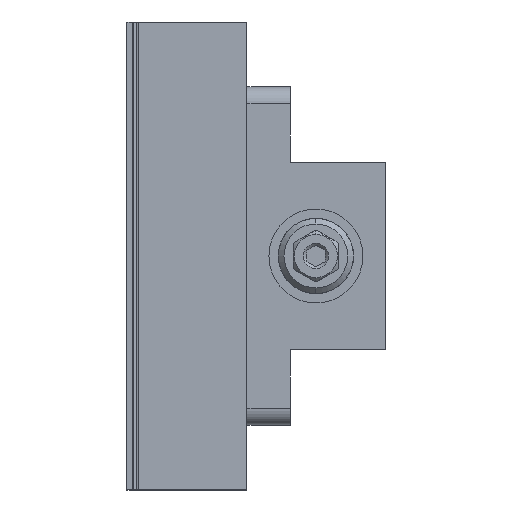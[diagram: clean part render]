
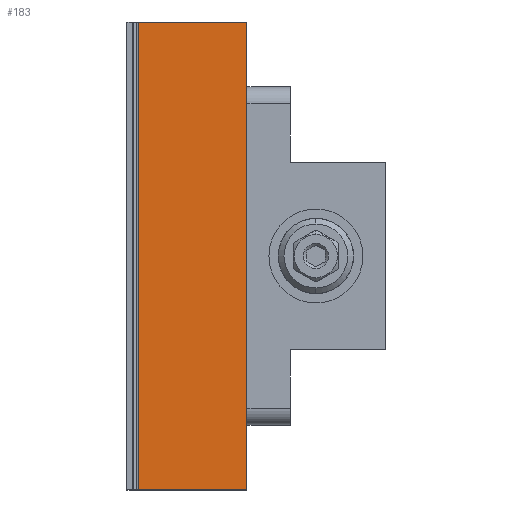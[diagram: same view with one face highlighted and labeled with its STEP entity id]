
A CAD part, left-side view. The second image highlights one B-rep face of the part: STEP entity #183.
In plain terms, the highlighted planar face has unit normal (-1, 0, 0).
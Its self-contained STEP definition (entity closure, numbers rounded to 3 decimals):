
#19 = PLANE ( 'NONE',  #3810 ) ;
#127 = CARTESIAN_POINT ( 'NONE',  ( -11.5, 47.35, -62.3 ) ) ;
#172 = LINE ( 'NONE', #262, #732 ) ;
#183 = ADVANCED_FACE ( 'NONE', ( #5107 ), #19, .F. ) ;
#262 = CARTESIAN_POINT ( 'NONE',  ( -11.5, 18.35, 45. ) ) ;
#475 = DIRECTION ( 'NONE',  ( 0., 1., 0. ) ) ;
#705 = EDGE_CURVE ( 'NONE', #1602, #3154, #3090, .T. ) ;
#732 = VECTOR ( 'NONE', #2861, 1000. ) ;
#1027 = CARTESIAN_POINT ( 'NONE',  ( -11.5, 18.35, -62.3 ) ) ;
#1289 = VERTEX_POINT ( 'NONE', #1027 ) ;
#1318 = EDGE_CURVE ( 'NONE', #1289, #3829, #172, .T. ) ;
#1418 = CARTESIAN_POINT ( 'NONE',  ( -11.5, 50.35, -62.3 ) ) ;
#1536 = DIRECTION ( 'NONE',  ( 0., 0., -1. ) ) ;
#1602 = VERTEX_POINT ( 'NONE', #3036 ) ;
#1702 = VECTOR ( 'NONE', #4782, 1000. ) ;
#2231 = CARTESIAN_POINT ( 'NONE',  ( -11.5, 18.35, 62.3 ) ) ;
#2443 = VECTOR ( 'NONE', #475, 1000. ) ;
#2445 = CARTESIAN_POINT ( 'NONE',  ( -11.5, 47.35, 62.3 ) ) ;
#2843 = ORIENTED_EDGE ( 'NONE', *, *, #3531, .T. ) ;
#2861 = DIRECTION ( 'NONE',  ( 0., 0., 1. ) ) ;
#2978 = EDGE_LOOP ( 'NONE', ( #2843, #3597, #5241, #5411 ) ) ;
#3036 = CARTESIAN_POINT ( 'NONE',  ( -11.5, 47.35, -62.3 ) ) ;
#3090 = LINE ( 'NONE', #127, #1702 ) ;
#3138 = LINE ( 'NONE', #1418, #4766 ) ;
#3154 = VERTEX_POINT ( 'NONE', #2445 ) ;
#3156 = DIRECTION ( 'NONE',  ( 1., 0., 0. ) ) ;
#3531 = EDGE_CURVE ( 'NONE', #3829, #3154, #3933, .T. ) ;
#3589 = EDGE_CURVE ( 'NONE', #1602, #1289, #3138, .T. ) ;
#3597 = ORIENTED_EDGE ( 'NONE', *, *, #705, .F. ) ;
#3641 = DIRECTION ( 'NONE',  ( 0., -1., 0. ) ) ;
#3658 = CARTESIAN_POINT ( 'NONE',  ( -11.5, 6.85, 25. ) ) ;
#3810 = AXIS2_PLACEMENT_3D ( 'NONE', #3658, #3156, #1536 ) ;
#3829 = VERTEX_POINT ( 'NONE', #4479 ) ;
#3933 = LINE ( 'NONE', #2231, #2443 ) ;
#4479 = CARTESIAN_POINT ( 'NONE',  ( -11.5, 18.35, 62.3 ) ) ;
#4766 = VECTOR ( 'NONE', #3641, 1000. ) ;
#4782 = DIRECTION ( 'NONE',  ( 0., 0., 1. ) ) ;
#5107 = FACE_OUTER_BOUND ( 'NONE', #2978, .T. ) ;
#5241 = ORIENTED_EDGE ( 'NONE', *, *, #3589, .T. ) ;
#5411 = ORIENTED_EDGE ( 'NONE', *, *, #1318, .T. ) ;
